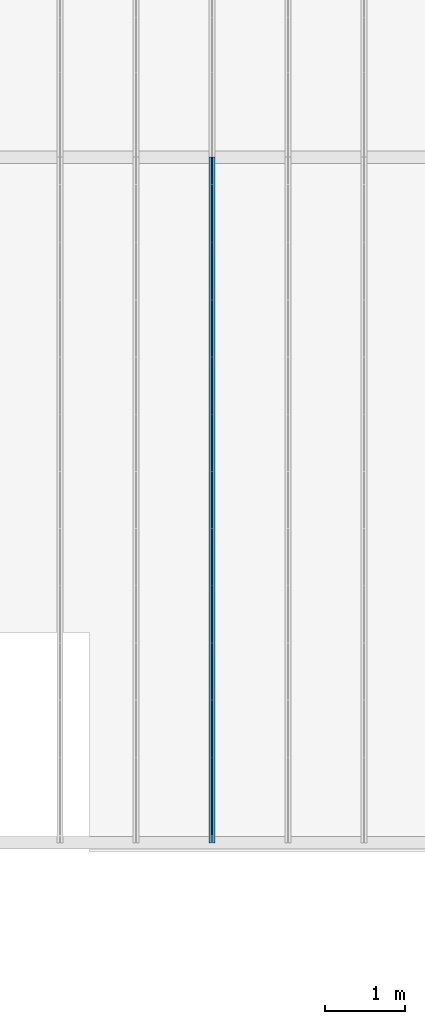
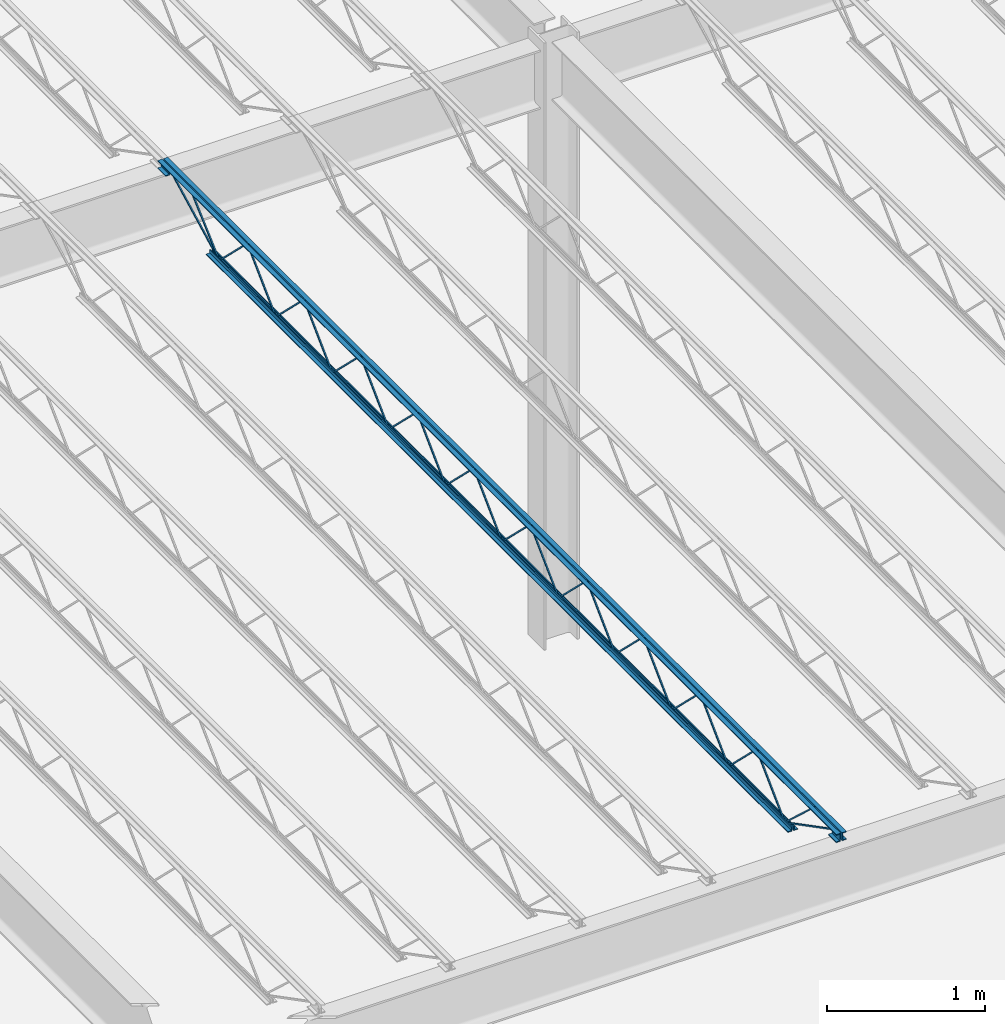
# One storey, part 61 of 119: 1 beam.
"""IFC2X3 building model written with IfcOpenShell, lengths in metres."""

from ifc_helpers import new_model, entity, si_unit, converted_unit, frame, origin, place, context, project, spatial, face_set, surface_model, element, save


model = new_model("IFC2X3")

# Units and contexts
model_context = context("Model", 3, precision=1e-09, world=origin())
plan_context = context("Plan", 3, precision=1e-09, world=origin())
ifc_project = project(units=[si_unit("LENGTHUNIT", "METRE"), si_unit("AREAUNIT", "SQUARE_METRE"), si_unit("VOLUMEUNIT", "CUBIC_METRE"), converted_unit("PLANEANGLEUNIT", "DEGREE", entity("IfcRatioMeasure", 0.01745329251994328), si_unit("PLANEANGLEUNIT", "RADIAN"), dimensions=[0, 0, 0, 0, 0, 0, 0]), si_unit("TIMEUNIT", "SECOND")], contexts=[model_context, plan_context])

# Site, building, storey
site_placement = place(None, origin())
site = spatial("IfcSite", under=ifc_project, at=site_placement, Name="Default", CompositionType="ELEMENT")
building_placement = place(site_placement, origin())
building = spatial("IfcBuilding", under=site, at=building_placement, CompositionType="ELEMENT")
storey_placement = place(building_placement, frame((0.0, 0.0, 4.570000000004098)))
storey = spatial("IfcBuildingStorey", under=building, at=storey_placement, Name="Second Floor", CompositionType="ELEMENT", Elevation=4.570000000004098)

# Beam
beam_placement = place(storey_placement, frame((-10.16674062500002, 10.03999999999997, 4.323999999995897), z_axis=(0.0, 0.0, 1.0), x_axis=(-1.0, 0.0, 0.0)))
element("IfcBeam", 1, at=beam_placement, inside=storey, Name="M_K-Series Bar Joist-Rod Web:14K1:14K1", ObjectType="M_K-Series Bar Joist-Rod Web:14K1", context=model_context, shape_type="SurfaceModel", body=[
    surface_model("IfcFaceBasedSurfaceModel", [(-0.03200000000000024, -2.141200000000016, 0.01110000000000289), (-0.04149999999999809, -2.141200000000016, 0.01110000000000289), (-0.04149999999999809, -2.141200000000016, 0.001600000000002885), (-0.03200000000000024, -2.141200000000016, 0.001600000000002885), (-0.04150000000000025, -2.139961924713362, 0.01110000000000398), (-0.03200000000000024, -2.139961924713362, 0.01110000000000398), (-0.04149999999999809, -2.136088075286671, 0.001600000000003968), (-0.04149999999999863, -1.785138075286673, 0.3449000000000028), (-0.04149999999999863, -1.782661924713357, 0.3449000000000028), (-0.04149999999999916, -1.431711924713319, 0.001600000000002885), (-0.04149999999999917, -1.426600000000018, 0.001600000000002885), (-0.04149999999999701, -1.426600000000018, 0.01110000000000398), (-0.04149999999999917, -1.427838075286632, 0.01110000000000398), (-0.04149999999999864, -1.77878807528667, 0.3544000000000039), (-0.04149999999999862, -1.78901192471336, 0.3544000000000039), (-0.03199999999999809, -2.136088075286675, 0.001600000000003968), (-0.03200000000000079, -1.785138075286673, 0.3449000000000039), (-0.03200000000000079, -1.782661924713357, 0.3449000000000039), (-0.03200000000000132, -1.431711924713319, 0.001600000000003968), (-0.03200000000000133, -1.426600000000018, 0.001600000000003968), (-0.03200000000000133, -1.426600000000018, 0.01110000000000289), (-0.03200000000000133, -1.427838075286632, 0.01110000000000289), (-0.03200000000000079, -1.77878807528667, 0.3544000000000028), (-0.03200000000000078, -1.78901192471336, 0.3544000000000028), (-0.03200000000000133, -2.855800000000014, 0.01110000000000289), (-0.04149999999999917, -2.855800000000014, 0.01110000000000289), (-0.04149999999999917, -2.855800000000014, 0.001600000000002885), (-0.03200000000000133, -2.855800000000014, 0.001600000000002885), (-0.04150000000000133, -2.854561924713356, 0.01110000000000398), (-0.03200000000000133, -2.854561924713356, 0.01110000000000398), (-0.04149999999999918, -2.850688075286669, 0.001600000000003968), (-0.04149999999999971, -2.499738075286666, 0.3449000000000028), (-0.04149999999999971, -2.497261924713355, 0.3449000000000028), (-0.04150000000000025, -2.146311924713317, 0.001600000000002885), (-0.04149999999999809, -2.141200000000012, 0.001600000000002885), (-0.04149999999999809, -2.141200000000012, 0.01110000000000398), (-0.04150000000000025, -2.14243807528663, 0.01110000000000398), (-0.04149999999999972, -2.493388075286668, 0.3544000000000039), (-0.0414999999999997, -2.503611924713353, 0.3544000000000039), (-0.03199999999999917, -2.850688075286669, 0.001600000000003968), (-0.03200000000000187, -2.499738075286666, 0.3449000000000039), (-0.03200000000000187, -2.497261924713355, 0.3449000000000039), (-0.0320000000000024, -2.146311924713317, 0.001600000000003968), (-0.03200000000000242, -2.141200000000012, 0.001600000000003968), (-0.03200000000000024, -2.141200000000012, 0.01110000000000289), (-0.03200000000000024, -2.14243807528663, 0.01110000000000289), (-0.03200000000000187, -2.493388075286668, 0.3544000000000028), (-0.03200000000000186, -2.503611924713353, 0.3544000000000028), (-0.03200000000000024, -3.570400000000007, 0.01110000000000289), (-0.04149999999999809, -3.570400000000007, 0.01110000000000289), (-0.04149999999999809, -3.570400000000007, 0.001600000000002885), (-0.03200000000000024, -3.570400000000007, 0.001600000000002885), (-0.04150000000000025, -3.569161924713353, 0.01110000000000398), (-0.03200000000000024, -3.569161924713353, 0.01110000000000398), (-0.04149999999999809, -3.565288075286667, 0.001600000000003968), (-0.04149999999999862, -3.214338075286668, 0.3449000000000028), (-0.04149999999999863, -3.211861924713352, 0.3449000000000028), (-0.04149999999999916, -2.860911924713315, 0.001600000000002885), (-0.04149999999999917, -2.855800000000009, 0.001600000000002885), (-0.04149999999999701, -2.855800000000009, 0.01110000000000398), (-0.04149999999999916, -2.857038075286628, 0.01110000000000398), (-0.04149999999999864, -3.207988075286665, 0.3544000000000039), (-0.04149999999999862, -3.218211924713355, 0.3544000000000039), (-0.03199999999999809, -3.565288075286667, 0.001600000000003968), (-0.03200000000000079, -3.214338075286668, 0.3449000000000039), (-0.03200000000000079, -3.211861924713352, 0.3449000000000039), (-0.03200000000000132, -2.860911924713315, 0.001600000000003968), (-0.03200000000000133, -2.855800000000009, 0.001600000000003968), (-0.03200000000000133, -2.855800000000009, 0.01110000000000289), (-0.03200000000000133, -2.857038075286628, 0.01110000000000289), (-0.03200000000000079, -3.207988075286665, 0.3544000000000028), (-0.03200000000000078, -3.218211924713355, 0.3544000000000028), (-0.03200000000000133, -4.285000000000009, 0.01110000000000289), (-0.04149999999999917, -4.285000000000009, 0.01110000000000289), (-0.04149999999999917, -4.285000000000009, 0.001600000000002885), (-0.03200000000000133, -4.285000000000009, 0.001600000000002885), (-0.04150000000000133, -4.283761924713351, 0.01110000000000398), (-0.03200000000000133, -4.283761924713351, 0.01110000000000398), (-0.04149999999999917, -4.279888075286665, 0.001600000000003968), (-0.0414999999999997, -3.928938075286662, 0.3449000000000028), (-0.04149999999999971, -3.92646192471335, 0.3449000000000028), (-0.04150000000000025, -3.575511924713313, 0.001600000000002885), (-0.04149999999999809, -3.570400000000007, 0.01110000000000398), (-0.04150000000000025, -3.571638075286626, 0.01110000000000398), (-0.04149999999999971, -3.922588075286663, 0.3544000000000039), (-0.0414999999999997, -3.932811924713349, 0.3544000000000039), (-0.03199999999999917, -4.279888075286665, 0.001600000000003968), (-0.03200000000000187, -3.928938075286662, 0.3449000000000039), (-0.03200000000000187, -3.92646192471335, 0.3449000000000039), (-0.0320000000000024, -3.575511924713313, 0.001600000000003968), (-0.03200000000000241, -3.570400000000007, 0.001600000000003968), (-0.03200000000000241, -3.571638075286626, 0.01110000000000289), (-0.03200000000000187, -3.922588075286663, 0.3544000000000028), (-0.03200000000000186, -3.932811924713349, 0.3544000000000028), (-0.03200000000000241, -4.999600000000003, 0.01110000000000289), (-0.04150000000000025, -4.999600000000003, 0.01110000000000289), (-0.04150000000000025, -4.999600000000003, 0.001600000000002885), (-0.03200000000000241, -4.999600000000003, 0.001600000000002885), (-0.04150000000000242, -4.998361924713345, 0.01110000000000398), (-0.03200000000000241, -4.998361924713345, 0.01110000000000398), (-0.04149999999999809, -4.994488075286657, 0.001600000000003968), (-0.04149999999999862, -4.643538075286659, 0.3449000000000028), (-0.04149999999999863, -4.641061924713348, 0.3449000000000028), (-0.04149999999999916, -4.290111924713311, 0.001600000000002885), (-0.04149999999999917, -4.285000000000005, 0.001600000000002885), (-0.04149999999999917, -4.285, 0.01110000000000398), (-0.04150000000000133, -4.286238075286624, 0.01110000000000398), (-0.04150000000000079, -4.637188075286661, 0.3544000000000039), (-0.04150000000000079, -4.647411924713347, 0.3544000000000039), (-0.03200000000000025, -4.994488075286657, 0.001600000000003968), (-0.03200000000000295, -4.643538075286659, 0.3449000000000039), (-0.03200000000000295, -4.641061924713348, 0.3449000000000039), (-0.03200000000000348, -4.290111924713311, 0.001600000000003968), (-0.03200000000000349, -4.285, 0.001600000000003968), (-0.03200000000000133, -4.285000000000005, 0.01110000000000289), (-0.03200000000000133, -4.286238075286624, 0.01110000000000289), (-0.03200000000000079, -4.637188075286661, 0.3544000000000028), (-0.03200000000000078, -4.647411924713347, 0.3544000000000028), (-0.03200000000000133, -5.714200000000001, 0.01110000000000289), (-0.04149999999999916, -5.714200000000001, 0.01110000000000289), (-0.04149999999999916, -5.714200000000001, 0.001600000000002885), (-0.03200000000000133, -5.714200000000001, 0.001600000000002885), (-0.04150000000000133, -5.712961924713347, 0.01110000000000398), (-0.03200000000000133, -5.712961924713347, 0.01110000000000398), (-0.04149999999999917, -5.70908807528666, 0.001600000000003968), (-0.0414999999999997, -5.358138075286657, 0.3449000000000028), (-0.04149999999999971, -5.355661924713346, 0.3449000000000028), (-0.04150000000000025, -5.004711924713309, 0.001600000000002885), (-0.04149999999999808, -4.999600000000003, 0.01110000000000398), (-0.04150000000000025, -5.000838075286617, 0.01110000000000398), (-0.04149999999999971, -5.351788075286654, 0.3544000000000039), (-0.0414999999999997, -5.362011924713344, 0.3544000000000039), (-0.03199999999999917, -5.70908807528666, 0.001600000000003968), (-0.03200000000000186, -5.358138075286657, 0.3449000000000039), (-0.03200000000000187, -5.355661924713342, 0.3449000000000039), (-0.0320000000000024, -5.004711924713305, 0.001600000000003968), (-0.03200000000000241, -4.999600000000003, 0.001600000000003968), (-0.0320000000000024, -5.000838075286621, 0.01110000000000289), (-0.03200000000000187, -5.351788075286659, 0.3544000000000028), (-0.03200000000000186, -5.362011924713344, 0.3544000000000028), (-0.03200000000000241, -6.428799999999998, 0.01110000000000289), (-0.04150000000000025, -6.428799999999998, 0.01110000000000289), (-0.04150000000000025, -6.428799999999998, 0.001600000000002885), (-0.03200000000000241, -6.428799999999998, 0.001600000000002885), (-0.04150000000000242, -6.42756192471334, 0.01110000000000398), (-0.03200000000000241, -6.42756192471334, 0.01110000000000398), (-0.04149999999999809, -6.423688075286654, 0.001600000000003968), (-0.04149999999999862, -6.072738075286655, 0.3449000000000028), (-0.04149999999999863, -6.070261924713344, 0.3449000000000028), (-0.04149999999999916, -5.719311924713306, 0.001600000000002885), (-0.04149999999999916, -5.714199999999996, 0.001600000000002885), (-0.04149999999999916, -5.714199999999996, 0.01110000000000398), (-0.04150000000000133, -5.715438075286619, 0.01110000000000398), (-0.04150000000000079, -6.066388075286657, 0.3544000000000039), (-0.04150000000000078, -6.076611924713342, 0.3544000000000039), (-0.03200000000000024, -6.423688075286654, 0.001600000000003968), (-0.03200000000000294, -6.072738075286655, 0.3449000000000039), (-0.03200000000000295, -6.070261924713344, 0.3449000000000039), (-0.03200000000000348, -5.719311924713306, 0.001600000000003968), (-0.03200000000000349, -5.714199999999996, 0.001600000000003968), (-0.03200000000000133, -5.714199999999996, 0.01110000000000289), (-0.03200000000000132, -5.715438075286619, 0.01110000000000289), (-0.03200000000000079, -6.066388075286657, 0.3544000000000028), (-0.03200000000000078, -6.076611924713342, 0.3544000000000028), (-0.03200000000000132, -7.143399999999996, 0.01110000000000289), (-0.04149999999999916, -7.143399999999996, 0.01110000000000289), (-0.04149999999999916, -7.143399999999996, 0.001600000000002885), (-0.03200000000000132, -7.143399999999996, 0.001600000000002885), (-0.04150000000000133, -7.142161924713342, 0.01110000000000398), (-0.03200000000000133, -7.142161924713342, 0.01110000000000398), (-0.04149999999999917, -7.138288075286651, 0.001600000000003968), (-0.0414999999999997, -6.787338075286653, 0.3449000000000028), (-0.0414999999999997, -6.784861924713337, 0.3449000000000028), (-0.04150000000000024, -6.4339119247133, 0.001600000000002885), (-0.04149999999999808, -6.428799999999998, 0.01110000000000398), (-0.04150000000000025, -6.430038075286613, 0.01110000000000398), (-0.04149999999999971, -6.780988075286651, 0.3544000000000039), (-0.0414999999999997, -6.79121192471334, 0.3544000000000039), (-0.03199999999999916, -7.138288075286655, 0.001600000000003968), (-0.03200000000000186, -6.787338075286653, 0.3449000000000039), (-0.03200000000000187, -6.784861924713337, 0.3449000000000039), (-0.0320000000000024, -6.4339119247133, 0.001600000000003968), (-0.03200000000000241, -6.428799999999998, 0.001600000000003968), (-0.0320000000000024, -6.430038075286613, 0.01110000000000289), (-0.03200000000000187, -6.780988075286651, 0.3544000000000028), (-0.03200000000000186, -6.79121192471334, 0.3544000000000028), (-0.03199999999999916, -1.426600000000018, 0.01109999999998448), (-0.04149999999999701, -1.426600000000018, 0.01109999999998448), (-0.04149999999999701, -1.426600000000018, 0.001599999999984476), (-0.03199999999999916, -1.426600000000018, 0.001599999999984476), (-0.04149999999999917, -1.42536192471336, 0.01109999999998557), (-0.03199999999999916, -1.42536192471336, 0.01109999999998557), (-0.04149999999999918, -1.421488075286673, 0.001599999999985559), (-0.04149999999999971, -1.07053807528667, 0.3448999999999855), (-0.04149999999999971, -1.068061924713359, 0.3448999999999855), (-0.04150000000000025, -0.7171119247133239, 0.001599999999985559), (-0.04149999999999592, -0.712000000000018, 0.001599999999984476), (-0.04149999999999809, -0.712000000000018, 0.01109999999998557), (-0.04150000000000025, -0.7132380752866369, 0.01109999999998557), (-0.04149999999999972, -1.064188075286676, 0.3543999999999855), (-0.0414999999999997, -1.074411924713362, 0.3543999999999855), (-0.03199999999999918, -1.421488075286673, 0.001599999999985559), (-0.0319999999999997, -1.070538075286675, 0.3448999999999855), (-0.0319999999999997, -1.068061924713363, 0.3448999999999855), (-0.03200000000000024, -0.7171119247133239, 0.001599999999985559), (-0.03200000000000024, -0.712000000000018, 0.001599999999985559), (-0.03199999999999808, -0.712000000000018, 0.01109999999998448), (-0.03199999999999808, -0.7132380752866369, 0.01109999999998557), (-0.03199999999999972, -1.064188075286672, 0.3543999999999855), (-0.0319999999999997, -1.074411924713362, 0.3543999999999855), (-0.0320000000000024, -7.857999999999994, 0.01110000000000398), (-0.04150000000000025, -7.857999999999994, 0.01110000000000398), (-0.04150000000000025, -7.857999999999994, 0.001600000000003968), (-0.0320000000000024, -7.857999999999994, 0.001600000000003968), (-0.04150000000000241, -7.856761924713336, 0.01110000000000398), (-0.03200000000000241, -7.856761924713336, 0.01110000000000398), (-0.04149999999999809, -7.852888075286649, 0.001600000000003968), (-0.04149999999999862, -7.501938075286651, 0.3449000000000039), (-0.04149999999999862, -7.499461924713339, 0.3449000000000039), (-0.04149999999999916, -7.148511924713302, 0.001600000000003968), (-0.04149999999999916, -7.143399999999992, 0.001600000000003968), (-0.04149999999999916, -7.143399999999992, 0.01110000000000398), (-0.04150000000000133, -7.144638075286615, 0.01110000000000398), (-0.04150000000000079, -7.495588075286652, 0.3544000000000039), (-0.04150000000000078, -7.505811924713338, 0.3544000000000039), (-0.03200000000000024, -7.852888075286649, 0.001600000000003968), (-0.03200000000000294, -7.501938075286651, 0.3449000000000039), (-0.03200000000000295, -7.499461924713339, 0.3449000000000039), (-0.03200000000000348, -7.148511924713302, 0.001600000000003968), (-0.03200000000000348, -7.143399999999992, 0.001600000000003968), (-0.03200000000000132, -7.143399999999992, 0.01110000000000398), (-0.03200000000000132, -7.144638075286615, 0.01110000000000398), (-0.03200000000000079, -7.495588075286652, 0.3544000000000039), (-0.03200000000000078, -7.505811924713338, 0.3544000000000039), (-0.04150000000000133, 0.0, 0.3559999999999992), (-0.07350000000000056, 0.0, 0.3559999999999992), (-0.07350000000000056, 0.0, 0.3494999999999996), (-0.04800000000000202, 0.0, 0.3494999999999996), (-0.04800000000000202, 0.0, 0.3239999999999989), (-0.04150000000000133, 0.0, 0.3239999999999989), (-0.03200000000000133, 0.0, 0.3559999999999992), (-0.03200000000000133, 0.0, 0.3239999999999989), (-0.02550000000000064, 0.0, 0.3239999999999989), (-0.02550000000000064, 0.0, 0.3494999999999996), (0.0, 0.0, 0.3494999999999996), (0.0, 0.0, 0.3559999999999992), (-0.04150000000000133, -8.569999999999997, 0.3559999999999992), (-0.07350000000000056, -8.569999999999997, 0.3559999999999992), (-0.07350000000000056, -8.569999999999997, 0.3494999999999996), (-0.04800000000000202, -8.569999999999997, 0.3494999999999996), (-0.04800000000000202, -8.569999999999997, 0.3239999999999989), (-0.04150000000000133, -8.569999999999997, 0.3239999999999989), (-0.03200000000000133, -8.569999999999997, 0.3559999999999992), (-0.03200000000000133, -8.569999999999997, 0.3239999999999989), (-0.02550000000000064, -8.569999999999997, 0.3239999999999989), (-0.02550000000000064, -8.569999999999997, 0.3494999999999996), (0.0, -8.569999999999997, 0.3494999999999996), (0.0, -8.569999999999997, 0.3559999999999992), (-0.03200000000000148, -8.470000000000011, 0.2924999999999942), (0.0, -8.470000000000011, 0.2924999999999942), (0.0, -8.470000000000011, 0.2989999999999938), (-0.02550000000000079, -8.470000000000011, 0.2989999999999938), (-0.02550000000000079, -8.470000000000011, 0.3239999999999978), (-0.03200000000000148, -8.470000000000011, 0.3239999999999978), (-0.0735000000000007, -8.470000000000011, 0.2924999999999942), (-0.04150000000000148, -8.470000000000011, 0.2924999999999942), (-0.04150000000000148, -8.470000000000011, 0.3239999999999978), (-0.04800000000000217, -8.470000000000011, 0.3239999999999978), (-0.04800000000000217, -8.470000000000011, 0.2989999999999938), (-0.0735000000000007, -8.470000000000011, 0.2989999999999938), (-0.03200000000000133, -8.569999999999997, 0.2924999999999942), (0.0, -8.569999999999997, 0.2924999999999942), (0.0, -8.569999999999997, 0.2989999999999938), (-0.02550000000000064, -8.569999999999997, 0.2989999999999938), (-0.02550000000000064, -8.569999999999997, 0.3239999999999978), (-0.03200000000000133, -8.569999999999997, 0.3239999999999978), (-0.07350000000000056, -8.569999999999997, 0.2924999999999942), (-0.04150000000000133, -8.569999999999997, 0.2924999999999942), (-0.04150000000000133, -8.569999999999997, 0.3239999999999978), (-0.04800000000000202, -8.569999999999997, 0.3239999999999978), (-0.04800000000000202, -8.569999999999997, 0.2989999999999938), (-0.07350000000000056, -8.569999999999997, 0.2989999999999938), (-0.04150000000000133, 0.0, 0.2924999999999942), (-0.04150000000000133, 0.0, 0.3239999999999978), (-0.04799999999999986, 0.0, 0.3239999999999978), (-0.04799999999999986, 0.0, 0.2989999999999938), (-0.07350000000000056, 0.0, 0.2989999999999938), (-0.07350000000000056, 0.0, 0.2924999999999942), (-0.03200000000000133, 0.0, 0.2924999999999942), (0.0, 0.0, 0.2924999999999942), (0.0, 0.0, 0.2989999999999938), (-0.02550000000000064, 0.0, 0.2989999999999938), (-0.02550000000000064, 0.0, 0.3239999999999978), (-0.03200000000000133, 0.0, 0.3239999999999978), (-0.04150000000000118, -0.09999999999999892, 0.2924999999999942), (-0.04150000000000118, -0.09999999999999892, 0.3239999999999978), (-0.0479999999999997, -0.09999999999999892, 0.3239999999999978), (-0.0479999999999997, -0.09999999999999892, 0.2989999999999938), (-0.07350000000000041, -0.09999999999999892, 0.2989999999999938), (-0.07350000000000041, -0.09999999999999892, 0.2924999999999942), (-0.03200000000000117, -0.09999999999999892, 0.2924999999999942), (0.0, -0.09999999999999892, 0.2924999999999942), (0.0, -0.09999999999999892, 0.2989999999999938), (-0.02550000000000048, -0.09999999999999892, 0.2989999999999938), (-0.02550000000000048, -0.09999999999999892, 0.3239999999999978), (-0.03200000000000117, -0.09999999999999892, 0.3239999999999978), (-0.04150000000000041, -0.6119999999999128, 0.0), (-0.04150000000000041, -0.6119999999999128, 0.03199999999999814), (-0.04800000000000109, -0.6119999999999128, 0.03199999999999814), (-0.04800000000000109, -0.6119999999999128, 0.006499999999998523), (-0.07349999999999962, -0.6119999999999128, 0.006499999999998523), (-0.07349999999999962, -0.6119999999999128, 0.0), (-0.0320000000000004, -0.6119999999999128, 0.0), (0.0, -0.6119999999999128, 0.0), (0.0, -0.6119999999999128, 0.006499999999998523), (-0.02549999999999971, -0.6119999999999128, 0.006499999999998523), (-0.02549999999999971, -0.6119999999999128, 0.03199999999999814), (-0.0320000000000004, -0.6119999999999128, 0.03199999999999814), (-0.04150000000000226, -7.957999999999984, 0.0), (-0.04150000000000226, -7.957999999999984, 0.03199999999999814), (-0.04800000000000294, -7.957999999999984, 0.03199999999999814), (-0.04800000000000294, -7.957999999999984, 0.006499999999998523), (-0.07350000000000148, -7.957999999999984, 0.006499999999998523), (-0.07350000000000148, -7.957999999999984, 0.0), (-0.03200000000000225, -7.957999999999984, 0.0), (0.0, -7.957999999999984, 0.0), (0.0, -7.957999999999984, 0.006499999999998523), (-0.02550000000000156, -7.957999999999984, 0.006499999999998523), (-0.02550000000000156, -7.957999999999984, 0.03199999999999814), (-0.03200000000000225, -7.957999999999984, 0.03199999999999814), (-0.03200000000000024, -7.855811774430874, 0.01056594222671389), (-0.04150000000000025, -7.855811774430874, 0.01056594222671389), (-0.04150000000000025, -7.860188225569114, 0.002134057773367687), (-0.0320000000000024, -7.860188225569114, 0.00213405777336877), (-0.03199999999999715, -8.468840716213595, 0.3287499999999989), (-0.031999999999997, -8.569999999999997, 0.3287499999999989), (-0.03199999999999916, -8.569999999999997, 0.3192499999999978), (-0.03199999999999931, -8.471159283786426, 0.3192499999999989), (-0.04149999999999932, -8.471159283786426, 0.3192499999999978), (-0.04149999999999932, -8.468840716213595, 0.3287499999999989), (-0.04149999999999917, -8.569999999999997, 0.3287499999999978), (-0.04149999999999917, -8.569999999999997, 0.3192499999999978), (-0.03200000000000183, -8.23525714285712, 0.3417000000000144), (-0.04149999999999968, -8.23525714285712, 0.3417000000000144), (-0.04149999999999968, -8.23525714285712, 0.3322000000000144), (-0.03200000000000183, -8.23525714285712, 0.3322000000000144), (-0.04150000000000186, -8.22072410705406, 0.3417000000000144), (-0.03200000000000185, -8.220724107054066, 0.3417000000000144), (-0.04149999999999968, -8.224390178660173, 0.3322000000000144), (-0.04150000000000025, -7.861190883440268, 0.002831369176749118), (-0.04150000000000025, -7.854809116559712, 0.009868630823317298), (-0.03199999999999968, -8.224390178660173, 0.3322000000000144), (-0.0320000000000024, -7.861190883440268, 0.002831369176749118), (-0.03200000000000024, -7.854809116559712, 0.009868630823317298), (-0.03199999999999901, -0.09781177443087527, 0.3197840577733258), (-0.03200000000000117, -0.1021882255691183, 0.328215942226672), (-0.04150000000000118, -0.1021882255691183, 0.328215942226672), (-0.04149999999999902, -0.09781177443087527, 0.3197840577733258), (-0.03199999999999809, -0.7098117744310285, 0.002134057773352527), (-0.03200000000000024, -0.7141882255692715, 0.01056594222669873), (-0.04150000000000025, -0.7141882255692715, 0.01056594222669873), (-0.04149999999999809, -0.7098117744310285, 0.002134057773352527), (-0.03199999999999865, -0.3369634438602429, 0.3461600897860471), (-0.03200000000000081, -0.3434079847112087, 0.3531399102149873), (-0.04150000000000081, -0.3434079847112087, 0.3531399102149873), (-0.04149999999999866, -0.3369634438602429, 0.3461600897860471), (-0.03199999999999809, -0.7087777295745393, 0.00286008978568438), (-0.03200000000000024, -0.7152222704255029, 0.009839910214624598), (-0.04150000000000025, -0.7152222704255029, 0.009839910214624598), (-0.04149999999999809, -0.7087777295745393, 0.00286008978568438)], [face_set([[[0, 1, 2, 3]], [[1, 4, 5, 0]], [[2, 6, 7, 8, 9, 10, 11, 12, 13, 14, 4, 1]], [[3, 2, 6, 15]], [[0, 3, 15, 16, 17, 18, 19, 20, 21, 22, 23, 5]], [[4, 5, 23, 14]], [[15, 16, 7, 6]], [[14, 13, 22, 23]], [[16, 7, 8, 17]], [[13, 12, 21, 22]], [[17, 8, 9, 18]], [[20, 11, 10, 19]], [[12, 11, 20, 21]], [[18, 9, 10, 19]]]), face_set([[[24, 25, 26, 27]], [[25, 28, 29, 24]], [[26, 30, 31, 32, 33, 34, 35, 36, 37, 38, 28, 25]], [[27, 26, 30, 39]], [[24, 27, 39, 40, 41, 42, 43, 44, 45, 46, 47, 29]], [[28, 29, 47, 38]], [[39, 40, 31, 30]], [[38, 37, 46, 47]], [[40, 31, 32, 41]], [[37, 36, 45, 46]], [[41, 32, 33, 42]], [[44, 35, 34, 43]], [[36, 35, 44, 45]], [[42, 33, 34, 43]]]), face_set([[[48, 49, 50, 51]], [[49, 52, 53, 48]], [[50, 54, 55, 56, 57, 58, 59, 60, 61, 62, 52, 49]], [[51, 50, 54, 63]], [[48, 51, 63, 64, 65, 66, 67, 68, 69, 70, 71, 53]], [[52, 53, 71, 62]], [[63, 64, 55, 54]], [[62, 61, 70, 71]], [[64, 55, 56, 65]], [[61, 60, 69, 70]], [[65, 56, 57, 66]], [[68, 59, 58, 67]], [[60, 59, 68, 69]], [[66, 57, 58, 67]]]), face_set([[[72, 73, 74, 75]], [[73, 76, 77, 72]], [[74, 78, 79, 80, 81, 50, 82, 83, 84, 85, 76, 73]], [[75, 74, 78, 86]], [[72, 75, 86, 87, 88, 89, 90, 48, 91, 92, 93, 77]], [[76, 77, 93, 85]], [[86, 87, 79, 78]], [[85, 84, 92, 93]], [[87, 79, 80, 88]], [[84, 83, 91, 92]], [[88, 80, 81, 89]], [[48, 82, 50, 90]], [[83, 82, 48, 91]], [[89, 81, 50, 90]]]), face_set([[[94, 95, 96, 97]], [[95, 98, 99, 94]], [[96, 100, 101, 102, 103, 104, 105, 106, 107, 108, 98, 95]], [[97, 96, 100, 109]], [[94, 97, 109, 110, 111, 112, 113, 114, 115, 116, 117, 99]], [[98, 99, 117, 108]], [[109, 110, 101, 100]], [[108, 107, 116, 117]], [[110, 101, 102, 111]], [[107, 106, 115, 116]], [[111, 102, 103, 112]], [[114, 105, 104, 113]], [[106, 105, 114, 115]], [[112, 103, 104, 113]]]), face_set([[[118, 119, 120, 121]], [[119, 122, 123, 118]], [[120, 124, 125, 126, 127, 96, 128, 129, 130, 131, 122, 119]], [[121, 120, 124, 132]], [[118, 121, 132, 133, 134, 135, 136, 94, 137, 138, 139, 123]], [[122, 123, 139, 131]], [[132, 133, 125, 124]], [[131, 130, 138, 139]], [[133, 125, 126, 134]], [[130, 129, 137, 138]], [[134, 126, 127, 135]], [[94, 128, 96, 136]], [[129, 128, 94, 137]], [[135, 127, 96, 136]]]), face_set([[[140, 141, 142, 143]], [[141, 144, 145, 140]], [[142, 146, 147, 148, 149, 150, 151, 152, 153, 154, 144, 141]], [[143, 142, 146, 155]], [[140, 143, 155, 156, 157, 158, 159, 160, 161, 162, 163, 145]], [[144, 145, 163, 154]], [[155, 156, 147, 146]], [[154, 153, 162, 163]], [[156, 147, 148, 157]], [[153, 152, 161, 162]], [[157, 148, 149, 158]], [[160, 151, 150, 159]], [[152, 151, 160, 161]], [[158, 149, 150, 159]]]), face_set([[[164, 165, 166, 167]], [[165, 168, 169, 164]], [[166, 170, 171, 172, 173, 142, 174, 175, 176, 177, 168, 165]], [[167, 166, 170, 178]], [[164, 167, 178, 179, 180, 181, 182, 140, 183, 184, 185, 169]], [[168, 169, 185, 177]], [[178, 179, 171, 170]], [[177, 176, 184, 185]], [[179, 171, 172, 180]], [[176, 175, 183, 184]], [[180, 172, 173, 181]], [[140, 174, 142, 182]], [[175, 174, 140, 183]], [[181, 173, 142, 182]]]), face_set([[[186, 187, 188, 189]], [[187, 190, 191, 186]], [[188, 192, 193, 194, 195, 196, 197, 198, 199, 200, 190, 187]], [[189, 188, 192, 201]], [[186, 189, 201, 202, 203, 204, 205, 206, 207, 208, 209, 191]], [[190, 191, 209, 200]], [[201, 202, 193, 192]], [[200, 199, 208, 209]], [[202, 193, 194, 203]], [[199, 198, 207, 208]], [[203, 194, 195, 204]], [[206, 197, 196, 205]], [[198, 197, 206, 207]], [[204, 195, 196, 205]]]), face_set([[[210, 211, 212, 213]], [[211, 214, 215, 210]], [[212, 216, 217, 218, 219, 220, 221, 222, 223, 224, 214, 211]], [[213, 212, 216, 225]], [[210, 213, 225, 226, 227, 228, 229, 230, 231, 232, 233, 215]], [[214, 215, 233, 224]], [[225, 226, 217, 216]], [[224, 223, 232, 233]], [[226, 217, 218, 227]], [[223, 222, 231, 232]], [[227, 218, 219, 228]], [[230, 221, 220, 229]], [[222, 221, 230, 231]], [[228, 219, 220, 229]]]), face_set([[[234, 235, 236, 237, 238, 239]], [[240, 241, 242, 243, 244, 245]], [[246, 247, 248, 249, 250, 251]], [[252, 253, 254, 255, 256, 257]], [[239, 234, 246, 251]], [[238, 239, 251, 250]], [[237, 249, 250, 238]], [[236, 237, 249, 248]], [[235, 247, 248, 236]], [[234, 246, 247, 235]], [[245, 257, 252, 240]], [[244, 245, 257, 256]], [[243, 244, 256, 255]], [[242, 243, 255, 254]], [[241, 242, 254, 253]], [[240, 252, 253, 241]]]), face_set([[[258, 259, 260, 261, 262, 263]], [[264, 265, 266, 267, 268, 269]], [[270, 271, 272, 273, 274, 275]], [[276, 277, 278, 279, 280, 281]], [[263, 275, 270, 258]], [[262, 274, 275, 263]], [[261, 262, 274, 273]], [[260, 272, 273, 261]], [[259, 260, 272, 271]], [[258, 259, 271, 270]], [[269, 281, 276, 264]], [[268, 280, 281, 269]], [[267, 279, 280, 268]], [[266, 278, 279, 267]], [[265, 266, 278, 277]], [[264, 265, 277, 276]]]), face_set([[[282, 283, 284, 285, 286, 287]], [[288, 289, 290, 291, 292, 293]], [[294, 295, 296, 297, 298, 299]], [[300, 301, 302, 303, 304, 305]], [[287, 282, 294, 299]], [[286, 298, 299, 287]], [[285, 297, 298, 286]], [[284, 296, 297, 285]], [[283, 295, 296, 284]], [[282, 283, 295, 294]], [[293, 305, 300, 288]], [[292, 304, 305, 293]], [[291, 292, 304, 303]], [[290, 302, 303, 291]], [[289, 290, 302, 301]], [[288, 289, 301, 300]]]), face_set([[[306, 307, 308, 309, 310, 311]], [[312, 313, 314, 315, 316, 317]], [[318, 319, 320, 321, 322, 323]], [[324, 325, 326, 327, 328, 329]], [[311, 306, 318, 323]], [[310, 322, 323, 311]], [[309, 321, 322, 310]], [[308, 320, 321, 309]], [[307, 319, 320, 308]], [[306, 307, 319, 318]], [[317, 329, 324, 312]], [[316, 328, 329, 317]], [[315, 316, 328, 327]], [[314, 326, 327, 315]], [[313, 314, 326, 325]], [[312, 313, 325, 324]]]), face_set([[[330, 331, 332, 333]], [[333, 330, 334, 335, 336, 337]], [[332, 333, 337, 338]], [[331, 339, 340, 341, 338, 332]], [[330, 334, 339, 331]], [[335, 340, 341, 336]], [[338, 337, 336, 341]], [[334, 335, 340, 339]]]), face_set([[[342, 343, 344, 345]], [[343, 346, 347, 342]], [[344, 348, 349, 350, 346, 343]], [[345, 344, 348, 351]], [[342, 345, 351, 352, 353, 347]], [[353, 350, 349, 352]], [[346, 350, 353, 347]], [[351, 348, 349, 352]]]), face_set([[[354, 355, 356, 357]], [[358, 359, 360, 361]], [[357, 354, 358, 361]], [[356, 360, 361, 357]], [[355, 359, 360, 356]], [[354, 355, 359, 358]]]), face_set([[[362, 363, 364, 365]], [[366, 367, 368, 369]], [[365, 369, 366, 362]], [[364, 368, 369, 365]], [[363, 364, 368, 367]], [[362, 363, 367, 366]]])]),
])

save(model, "model.ifc")
